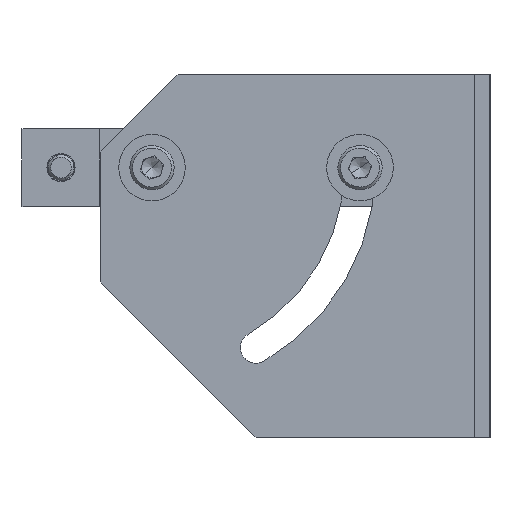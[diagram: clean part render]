
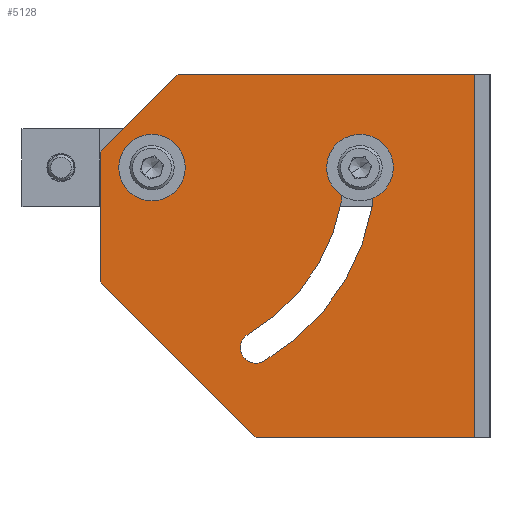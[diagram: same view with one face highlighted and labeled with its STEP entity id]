
A CAD part, left-side view. The second image highlights one B-rep face of the part: STEP entity #5128.
In plain terms, the highlighted planar face has unit normal (-1, 0, 0).
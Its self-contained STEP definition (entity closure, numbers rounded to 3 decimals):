
#34 = VECTOR ( 'NONE', #5170, 1000. ) ;
#100 = CARTESIAN_POINT ( 'NONE',  ( -33., 3., -34.641 ) ) ;
#102 = VERTEX_POINT ( 'NONE', #4494 ) ;
#137 = VERTEX_POINT ( 'NONE', #4426 ) ;
#155 = DIRECTION ( 'NONE',  ( 0., 1., 0. ) ) ;
#269 = CARTESIAN_POINT ( 'NONE',  ( -33., 20., 0. ) ) ;
#377 = DIRECTION ( 'NONE',  ( -1., 0., 0. ) ) ;
#470 = DIRECTION ( 'NONE',  ( 1., 0., 0. ) ) ;
#481 = CARTESIAN_POINT ( 'NONE',  ( -33., 30., -17. ) ) ;
#491 = LINE ( 'NONE', #481, #2427 ) ;
#560 = EDGE_CURVE ( 'NONE', #6213, #137, #7882, .T. ) ;
#564 = EDGE_CURVE ( 'NONE', #9230, #7828, #7471, .T. ) ;
#662 = AXIS2_PLACEMENT_3D ( 'NONE', #7927, #2859, #8768 ) ;
#668 = EDGE_LOOP ( 'NONE', ( #1285, #7623, #3537, #834, #2029, #2671 ) ) ;
#734 = VERTEX_POINT ( 'NONE', #8864 ) ;
#744 = VERTEX_POINT ( 'NONE', #5100 ) ;
#834 = ORIENTED_EDGE ( 'NONE', *, *, #6223, .F. ) ;
#876 = VERTEX_POINT ( 'NONE', #8703 ) ;
#916 = AXIS2_PLACEMENT_3D ( 'NONE', #10612, #9403, #7159 ) ;
#1001 = AXIS2_PLACEMENT_3D ( 'NONE', #9108, #470, #3790 ) ;
#1007 = AXIS2_PLACEMENT_3D ( 'NONE', #269, #6075, #1103 ) ;
#1057 = DIRECTION ( 'NONE',  ( 0., -1., 0. ) ) ;
#1077 = EDGE_CURVE ( 'NONE', #2689, #8170, #1701, .T. ) ;
#1090 = DIRECTION ( 'NONE',  ( 1., 0., 0. ) ) ;
#1103 = DIRECTION ( 'NONE',  ( 0., -1., 0. ) ) ;
#1207 = CARTESIAN_POINT ( 'NONE',  ( -33., 0., -34.641 ) ) ;
#1271 = DIRECTION ( 'NONE',  ( 0., 1., 0. ) ) ;
#1285 = ORIENTED_EDGE ( 'NONE', *, *, #560, .T. ) ;
#1326 = DIRECTION ( 'NONE',  ( 0., 0., -1. ) ) ;
#1459 = CIRCLE ( 'NONE', #7184, 2.7 ) ;
#1503 = CARTESIAN_POINT ( 'NONE',  ( -33., 30., -22. ) ) ;
#1701 = LINE ( 'NONE', #5947, #3901 ) ;
#1708 = CARTESIAN_POINT ( 'NONE',  ( -33., 15., 18. ) ) ;
#1832 = DIRECTION ( 'NONE',  ( 1., 0., 0. ) ) ;
#1864 = CARTESIAN_POINT ( 'NONE',  ( -33., 0., -52. ) ) ;
#2029 = ORIENTED_EDGE ( 'NONE', *, *, #1077, .F. ) ;
#2249 = VERTEX_POINT ( 'NONE', #6409 ) ;
#2427 = VECTOR ( 'NONE', #1326, 1000. ) ;
#2532 = EDGE_LOOP ( 'NONE', ( #8986, #8467 ) ) ;
#2616 = VECTOR ( 'NONE', #1271, 1000. ) ;
#2671 = ORIENTED_EDGE ( 'NONE', *, *, #4645, .T. ) ;
#2689 = VERTEX_POINT ( 'NONE', #7545 ) ;
#2773 = CARTESIAN_POINT ( 'NONE',  ( -33., -6., 18. ) ) ;
#2859 = DIRECTION ( 'NONE',  ( 1., 0., 0. ) ) ;
#2864 = DIRECTION ( 'NONE',  ( 0., 0., 1. ) ) ;
#2898 = FACE_OUTER_BOUND ( 'NONE', #668, .T. ) ;
#2902 = CARTESIAN_POINT ( 'NONE',  ( -33., 20., 0. ) ) ;
#3024 = AXIS2_PLACEMENT_3D ( 'NONE', #4612, #4569, #4392 ) ;
#3114 = CIRCLE ( 'NONE', #1001, 2.7 ) ;
#3171 = CARTESIAN_POINT ( 'NONE',  ( -33., -1.5, -37.239 ) ) ;
#3537 = ORIENTED_EDGE ( 'NONE', *, *, #6815, .T. ) ;
#3554 = CIRCLE ( 'NONE', #5804, 3. ) ;
#3712 = LINE ( 'NONE', #5071, #9001 ) ;
#3753 = EDGE_CURVE ( 'NONE', #9893, #734, #6422, .T. ) ;
#3783 = CARTESIAN_POINT ( 'NONE',  ( -33., 20., -2.7 ) ) ;
#3790 = DIRECTION ( 'NONE',  ( 0., 0., 1. ) ) ;
#3901 = VECTOR ( 'NONE', #9056, 1000. ) ;
#4139 = EDGE_CURVE ( 'NONE', #10133, #2249, #3114, .T. ) ;
#4197 = EDGE_CURVE ( 'NONE', #2249, #10133, #1459, .T. ) ;
#4220 = ORIENTED_EDGE ( 'NONE', *, *, #564, .T. ) ;
#4392 = DIRECTION ( 'NONE',  ( 0., 1., 0. ) ) ;
#4426 = CARTESIAN_POINT ( 'NONE',  ( -33., 30., 3. ) ) ;
#4494 = CARTESIAN_POINT ( 'NONE',  ( -33., 1.5, -32.043 ) ) ;
#4569 = DIRECTION ( 'NONE',  ( -1., 0., 0. ) ) ;
#4612 = CARTESIAN_POINT ( 'NONE',  ( -33., -42., 18. ) ) ;
#4624 = VECTOR ( 'NONE', #5652, 1000. ) ;
#4645 = EDGE_CURVE ( 'NONE', #2689, #6213, #5053, .T. ) ;
#5034 = CARTESIAN_POINT ( 'NONE',  ( -33., -1.5, -37.239 ) ) ;
#5053 = LINE ( 'NONE', #2773, #2616 ) ;
#5071 = CARTESIAN_POINT ( 'NONE',  ( -33., -22.5, -52. ) ) ;
#5075 = FACE_BOUND ( 'NONE', #6267, .T. ) ;
#5100 = CARTESIAN_POINT ( 'NONE',  ( -33., 30., -22. ) ) ;
#5128 = ADVANCED_FACE ( 'NONE', ( #5075, #9599, #2898 ), #5937, .T. ) ;
#5144 = EDGE_CURVE ( 'NONE', #7828, #102, #3554, .T. ) ;
#5170 = DIRECTION ( 'NONE',  ( 0., 0.707, -0.707 ) ) ;
#5192 = ORIENTED_EDGE ( 'NONE', *, *, #5144, .T. ) ;
#5270 = CARTESIAN_POINT ( 'NONE',  ( -33., -42., -52. ) ) ;
#5286 = ORIENTED_EDGE ( 'NONE', *, *, #8127, .T. ) ;
#5312 = CARTESIAN_POINT ( 'NONE',  ( -33., 20., 0. ) ) ;
#5389 = CIRCLE ( 'NONE', #662, 3. ) ;
#5652 = DIRECTION ( 'NONE',  ( 0., -0.707, -0.707 ) ) ;
#5804 = AXIS2_PLACEMENT_3D ( 'NONE', #1207, #1090, #1057 ) ;
#5937 = PLANE ( 'NONE',  #3024 ) ;
#5947 = CARTESIAN_POINT ( 'NONE',  ( -33., -42., -17. ) ) ;
#6062 = CARTESIAN_POINT ( 'NONE',  ( -33., -17., 0. ) ) ;
#6075 = DIRECTION ( 'NONE',  ( 1., 0., 0. ) ) ;
#6181 = DIRECTION ( 'NONE',  ( 0., -1., 0. ) ) ;
#6213 = VERTEX_POINT ( 'NONE', #1708 ) ;
#6223 = EDGE_CURVE ( 'NONE', #8170, #7940, #3712, .T. ) ;
#6267 = EDGE_LOOP ( 'NONE', ( #8322, #8048, #5286, #4220, #5192, #8006 ) ) ;
#6280 = CARTESIAN_POINT ( 'NONE',  ( -33., 15., 18. ) ) ;
#6409 = CARTESIAN_POINT ( 'NONE',  ( -33., 20., 2.7 ) ) ;
#6422 = CIRCLE ( 'NONE', #916, 3. ) ;
#6658 = CARTESIAN_POINT ( 'NONE',  ( -33., 3., -34.641 ) ) ;
#6815 = EDGE_CURVE ( 'NONE', #744, #7940, #6894, .T. ) ;
#6894 = LINE ( 'NONE', #1503, #4624 ) ;
#7159 = DIRECTION ( 'NONE',  ( 0., 0., 1. ) ) ;
#7184 = AXIS2_PLACEMENT_3D ( 'NONE', #2902, #1832, #2864 ) ;
#7471 =( BOUNDED_CURVE ( )  B_SPLINE_CURVE ( 3, ( #3171, #8781, #8306, #6658 ),
 .UNSPECIFIED., .F., .T. ) 
 B_SPLINE_CURVE_WITH_KNOTS ( ( 4, 4 ),
 ( 0., 0.006 ),
 .UNSPECIFIED. ) 
 CURVE ( )  GEOMETRIC_REPRESENTATION_ITEM ( )  RATIONAL_B_SPLINE_CURVE ( ( 1., 0.667, 0.667, 1. ) ) 
 REPRESENTATION_ITEM ( '' )  );
#7545 = CARTESIAN_POINT ( 'NONE',  ( -33., -42., 18. ) ) ;
#7572 = CIRCLE ( 'NONE', #1007, 43. ) ;
#7623 = ORIENTED_EDGE ( 'NONE', *, *, #9361, .T. ) ;
#7706 = CIRCLE ( 'NONE', #10370, 37. ) ;
#7828 = VERTEX_POINT ( 'NONE', #100 ) ;
#7882 = LINE ( 'NONE', #6280, #34 ) ;
#7927 = CARTESIAN_POINT ( 'NONE',  ( -33., -20., 0. ) ) ;
#7940 = VERTEX_POINT ( 'NONE', #1864 ) ;
#8006 = ORIENTED_EDGE ( 'NONE', *, *, #9243, .T. ) ;
#8048 = ORIENTED_EDGE ( 'NONE', *, *, #9255, .T. ) ;
#8127 = EDGE_CURVE ( 'NONE', #876, #9230, #7572, .T. ) ;
#8170 = VERTEX_POINT ( 'NONE', #5270 ) ;
#8306 = CARTESIAN_POINT ( 'NONE',  ( -33., 3., -37.239 ) ) ;
#8322 = ORIENTED_EDGE ( 'NONE', *, *, #3753, .T. ) ;
#8467 = ORIENTED_EDGE ( 'NONE', *, *, #4139, .T. ) ;
#8703 = CARTESIAN_POINT ( 'NONE',  ( -33., -23., 0. ) ) ;
#8768 = DIRECTION ( 'NONE',  ( 0., 0., 1. ) ) ;
#8781 = CARTESIAN_POINT ( 'NONE',  ( -33., 0.75, -38.538 ) ) ;
#8864 = CARTESIAN_POINT ( 'NONE',  ( -33., -20., 3. ) ) ;
#8986 = ORIENTED_EDGE ( 'NONE', *, *, #4197, .T. ) ;
#9001 = VECTOR ( 'NONE', #155, 1000. ) ;
#9056 = DIRECTION ( 'NONE',  ( 0., 0., -1. ) ) ;
#9108 = CARTESIAN_POINT ( 'NONE',  ( -33., 20., 0. ) ) ;
#9230 = VERTEX_POINT ( 'NONE', #5034 ) ;
#9243 = EDGE_CURVE ( 'NONE', #102, #9893, #7706, .T. ) ;
#9255 = EDGE_CURVE ( 'NONE', #734, #876, #5389, .T. ) ;
#9361 = EDGE_CURVE ( 'NONE', #137, #744, #491, .T. ) ;
#9403 = DIRECTION ( 'NONE',  ( 1., 0., 0. ) ) ;
#9599 = FACE_BOUND ( 'NONE', #2532, .T. ) ;
#9893 = VERTEX_POINT ( 'NONE', #6062 ) ;
#10133 = VERTEX_POINT ( 'NONE', #3783 ) ;
#10370 = AXIS2_PLACEMENT_3D ( 'NONE', #5312, #377, #6181 ) ;
#10612 = CARTESIAN_POINT ( 'NONE',  ( -33., -20., 0. ) ) ;
